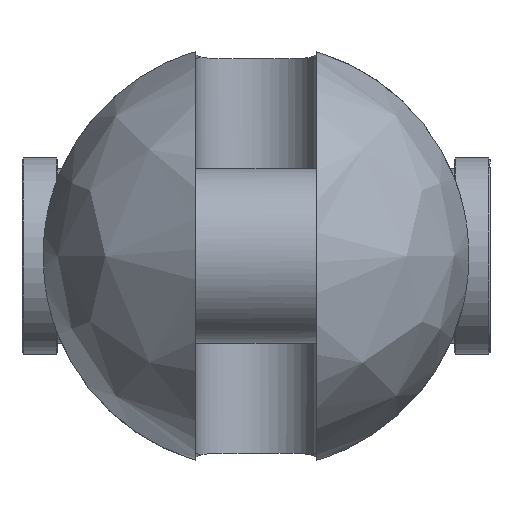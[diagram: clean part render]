
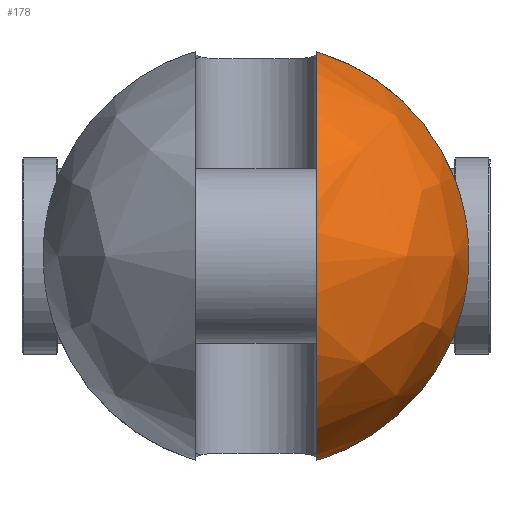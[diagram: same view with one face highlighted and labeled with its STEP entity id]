
A CAD part, left-side view. The second image highlights one B-rep face of the part: STEP entity #178.
In plain terms, the highlighted free-form (B-spline) face has degree [2, 2] with [9, 5] control points.
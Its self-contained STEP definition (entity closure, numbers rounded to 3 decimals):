
#178=ADVANCED_FACE('',(#318),#2404,.T.);
#318=FACE_OUTER_BOUND('',#478,.T.);
#478=EDGE_LOOP('',(#1187,#1188,#1189,#1190));
#1187=ORIENTED_EDGE('',*,*,#1570,.T.);
#1188=ORIENTED_EDGE('',*,*,#1594,.F.);
#1189=ORIENTED_EDGE('',*,*,#1606,.T.);
#1190=ORIENTED_EDGE('',*,*,#1586,.F.);
#1570=EDGE_CURVE('',#2237,#2236,#1972,.T.);
#1586=EDGE_CURVE('',#2237,#2249,#1982,.T.);
#1594=EDGE_CURVE('',#2256,#2236,#1983,.T.);
#1606=EDGE_CURVE('',#2256,#2249,#1779,.T.);
#1779=B_SPLINE_CURVE_WITH_KNOTS('',3,(#6146,#6147,#6148,#6149,#6150,#6151,
#6152,#6153,#6154,#6155,#6156,#6157,#6158,#6159),.UNSPECIFIED.,.F.,.F.,
(4,2,2,2,2,2,4),(0.,4.322,11.398,18.474,25.549,
32.625,36.947),.UNSPECIFIED.);
#1972=(
BOUNDED_CURVE()
B_SPLINE_CURVE(2,(#5914,#5915,#5916,#5917,#5918),.UNSPECIFIED.,.F.,.F.)
B_SPLINE_CURVE_WITH_KNOTS((3,2,3),(-231.819,-115.909,
0.),.UNSPECIFIED.)
CURVE()
GEOMETRIC_REPRESENTATION_ITEM()
RATIONAL_B_SPLINE_CURVE((1.,0.707,1.,0.707,1.))
REPRESENTATION_ITEM('')
);
#1982=(
BOUNDED_CURVE()
B_SPLINE_CURVE(2,(#6016,#6017,#6018),.UNSPECIFIED.,.F.,.F.)
B_SPLINE_CURVE_WITH_KNOTS((3,3),(0.,80.928),.UNSPECIFIED.)
CURVE()
GEOMETRIC_REPRESENTATION_ITEM()
RATIONAL_B_SPLINE_CURVE((1.,0.865,1.))
REPRESENTATION_ITEM('')
);
#1983=(
BOUNDED_CURVE()
B_SPLINE_CURVE(2,(#6073,#6074,#6075),.UNSPECIFIED.,.F.,.F.)
B_SPLINE_CURVE_WITH_KNOTS((3,3),(0.,80.928),.UNSPECIFIED.)
CURVE()
GEOMETRIC_REPRESENTATION_ITEM()
RATIONAL_B_SPLINE_CURVE((1.,0.865,1.))
REPRESENTATION_ITEM('')
);
#2236=VERTEX_POINT('',#5766);
#2237=VERTEX_POINT('',#5767);
#2249=VERTEX_POINT('',#5779);
#2256=VERTEX_POINT('',#5786);
#2404=(
BOUNDED_SURFACE()
B_SPLINE_SURFACE(2,2,((#5480,#5481,#5482,#5483,#5484),(#5485,#5486,#5487,
#5488,#5489),(#5490,#5491,#5492,#5493,#5494),(#5495,#5496,#5497,#5498,#5499),
(#5500,#5501,#5502,#5503,#5504),(#5505,#5506,#5507,#5508,#5509),(#5510,
#5511,#5512,#5513,#5514),(#5515,#5516,#5517,#5518,#5519),(#5520,#5521,#5522,
#5523,#5524)),.UNSPECIFIED.,.T.,.F.,.F.)
B_SPLINE_SURFACE_WITH_KNOTS((3,2,2,2,3),(3,2,3),(0.,120.951,241.903,
362.854,483.805),(0.,120.951,241.903),
 .UNSPECIFIED.)
GEOMETRIC_REPRESENTATION_ITEM()
RATIONAL_B_SPLINE_SURFACE(((1.,0.707,1.,0.707,1.),
(0.707,0.5,0.707,0.5,0.707),(1.,0.707,
1.,0.707,1.),(0.707,0.5,0.707,0.5,0.707),
(1.,0.707,1.,0.707,1.),(0.707,0.5,0.707,
0.5,0.707),(1.,0.707,1.,0.707,1.),(0.707,
0.5,0.707,0.5,0.707),(1.,0.707,1.,0.707,
1.)))
REPRESENTATION_ITEM('')
SURFACE()
);
#5480=CARTESIAN_POINT('',(-109.,0.,0.));
#5481=CARTESIAN_POINT('',(-109.,77.,0.));
#5482=CARTESIAN_POINT('',(-32.,77.,0.));
#5483=CARTESIAN_POINT('',(45.,77.,0.));
#5484=CARTESIAN_POINT('',(45.,0.,0.));
#5485=CARTESIAN_POINT('',(-109.,0.,0.));
#5486=CARTESIAN_POINT('',(-109.,77.,77.));
#5487=CARTESIAN_POINT('',(-32.,77.,77.));
#5488=CARTESIAN_POINT('',(45.,77.,77.));
#5489=CARTESIAN_POINT('',(45.,0.,0.));
#5490=CARTESIAN_POINT('',(-109.,0.,0.));
#5491=CARTESIAN_POINT('',(-109.,0.,77.));
#5492=CARTESIAN_POINT('',(-32.,0.,77.));
#5493=CARTESIAN_POINT('',(45.,0.,77.));
#5494=CARTESIAN_POINT('',(45.,0.,0.));
#5495=CARTESIAN_POINT('',(-109.,0.,0.));
#5496=CARTESIAN_POINT('',(-109.,-77.,77.));
#5497=CARTESIAN_POINT('',(-32.,-77.,77.));
#5498=CARTESIAN_POINT('',(45.,-77.,77.));
#5499=CARTESIAN_POINT('',(45.,0.,0.));
#5500=CARTESIAN_POINT('',(-109.,0.,0.));
#5501=CARTESIAN_POINT('',(-109.,-77.,0.));
#5502=CARTESIAN_POINT('',(-32.,-77.,0.));
#5503=CARTESIAN_POINT('',(45.,-77.,0.));
#5504=CARTESIAN_POINT('',(45.,0.,0.));
#5505=CARTESIAN_POINT('',(-109.,0.,0.));
#5506=CARTESIAN_POINT('',(-109.,-77.,-77.));
#5507=CARTESIAN_POINT('',(-32.,-77.,-77.));
#5508=CARTESIAN_POINT('',(45.,-77.,-77.));
#5509=CARTESIAN_POINT('',(45.,0.,0.));
#5510=CARTESIAN_POINT('',(-109.,0.,0.));
#5511=CARTESIAN_POINT('',(-109.,0.,-77.));
#5512=CARTESIAN_POINT('',(-32.,0.,-77.));
#5513=CARTESIAN_POINT('',(45.,0.,-77.));
#5514=CARTESIAN_POINT('',(45.,0.,0.));
#5515=CARTESIAN_POINT('',(-109.,0.,0.));
#5516=CARTESIAN_POINT('',(-109.,77.,-77.));
#5517=CARTESIAN_POINT('',(-32.,77.,-77.));
#5518=CARTESIAN_POINT('',(45.,77.,-77.));
#5519=CARTESIAN_POINT('',(45.,0.,0.));
#5520=CARTESIAN_POINT('',(-109.,0.,0.));
#5521=CARTESIAN_POINT('',(-109.,77.,0.));
#5522=CARTESIAN_POINT('',(-32.,77.,0.));
#5523=CARTESIAN_POINT('',(45.,77.,0.));
#5524=CARTESIAN_POINT('',(45.,0.,0.));
#5766=CARTESIAN_POINT('',(-32.,-22.,-73.79));
#5767=CARTESIAN_POINT('',(-32.,-22.,73.79));
#5779=CARTESIAN_POINT('',(-32.,-74.972,17.557));
#5786=CARTESIAN_POINT('',(-32.,-74.972,-17.557));
#5914=CARTESIAN_POINT('',(-32.,-22.,73.79));
#5915=CARTESIAN_POINT('',(-105.79,-22.,73.79));
#5916=CARTESIAN_POINT('',(-105.79,-22.,0.));
#5917=CARTESIAN_POINT('',(-105.79,-22.,-73.79));
#5918=CARTESIAN_POINT('',(-32.,-22.,-73.79));
#6016=CARTESIAN_POINT('',(-32.,-22.,73.79));
#6017=CARTESIAN_POINT('',(-32.,-64.79,61.033));
#6018=CARTESIAN_POINT('',(-32.,-74.972,17.557));
#6073=CARTESIAN_POINT('',(-32.,-74.972,-17.557));
#6074=CARTESIAN_POINT('',(-32.,-64.79,-61.033));
#6075=CARTESIAN_POINT('',(-32.,-22.,-73.79));
#6146=CARTESIAN_POINT('',(-32.,-74.972,-17.557));
#6147=CARTESIAN_POINT('',(-32.686,-75.264,-16.307));
#6148=CARTESIAN_POINT('',(-33.304,-75.526,-15.006));
#6149=CARTESIAN_POINT('',(-34.727,-76.128,-11.482));
#6150=CARTESIAN_POINT('',(-35.401,-76.41,-9.193));
#6151=CARTESIAN_POINT('',(-36.288,-76.78,-4.579));
#6152=CARTESIAN_POINT('',(-36.5,-76.868,-2.254));
#6153=CARTESIAN_POINT('',(-36.5,-76.868,2.254));
#6154=CARTESIAN_POINT('',(-36.288,-76.78,4.579));
#6155=CARTESIAN_POINT('',(-35.401,-76.41,9.193));
#6156=CARTESIAN_POINT('',(-34.727,-76.128,11.482));
#6157=CARTESIAN_POINT('',(-33.304,-75.526,15.006));
#6158=CARTESIAN_POINT('',(-32.686,-75.264,16.307));
#6159=CARTESIAN_POINT('',(-32.,-74.972,17.557));
